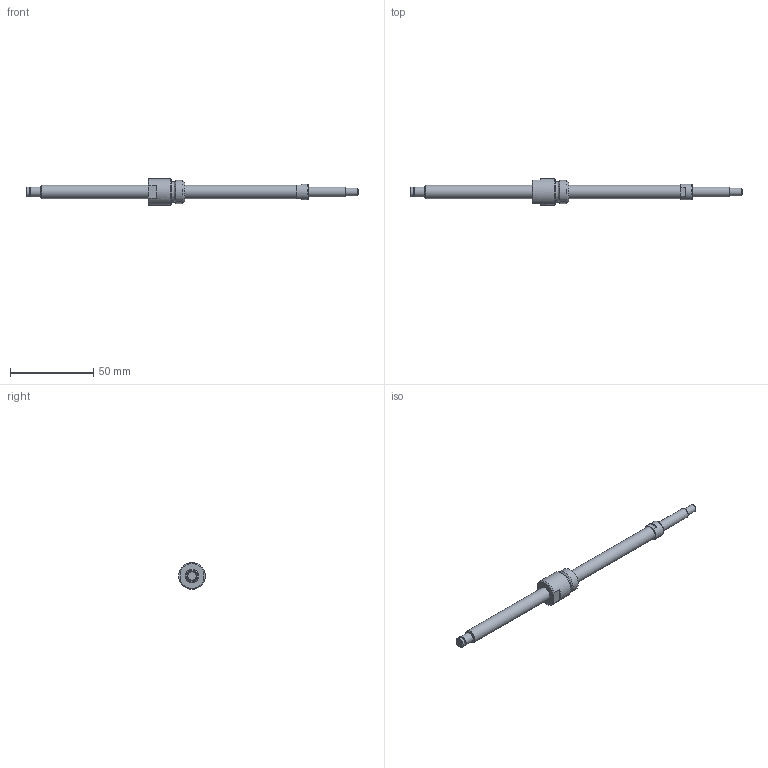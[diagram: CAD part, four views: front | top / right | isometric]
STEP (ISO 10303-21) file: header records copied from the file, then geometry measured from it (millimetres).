
FILE_DESCRIPTION(/* description */ ('STEP AP214'),/* implementation_level */ '2;1');
FILE_NAME(/* name */ 'NSG0801-151R200C5B0X(64.5)',/* time_stamp */ '2026-08-20T15:47:15+02:00',/* author */ ('License CC BY-ND 4.0'),/* organization */ ('CADENAS'),/* preprocessor_version */ 'ST-DEVELOPER v20',/* originating_system */ 'PARTsolutions',/* authorisation */ ' ');
FILE_SCHEMA (('AUTOMOTIVE_DESIGN {1 0 10303 214 3 1 1}'));
Length unit declared in the file: millimetre
Products named in the file (3): NSG0801-151R200C5B0X(64.5); NSG0801-151R200C3B_shaft; NSG0801_nut
Assembly tree (2 placements, depth 2):
  NSG0801-151R200C5B0X(64.5)
    NSG0801-151R200C3B_shaft
    NSG0801_nut
Bounding box: 200 x 16 x 16 mm (x, y, z)
Volume: 12007.7 mm3; surface area: 6792.9 mm2
Topology: 2 solids, 2 shells, 42 faces, 83 edges, 51 vertices
Faces by surface type: plane 20, cylinder 11, cone 10, torus 1
Full cylindrical faces by diameter (mm): 4.5 x1, 5.7 x1, 6 x3, 8 x2, 9.5 x1, 12.4 x1, 14 x1, 16 x1
Entity records: 1047 total; most frequent: DIRECTION 186, CARTESIAN_POINT 167, ORIENTED_EDGE 122, AXIS2_PLACEMENT_3D 84, EDGE_LOOP 70, FACE_BOUND 70, EDGE_CURVE 61, VERTEX_POINT 49
